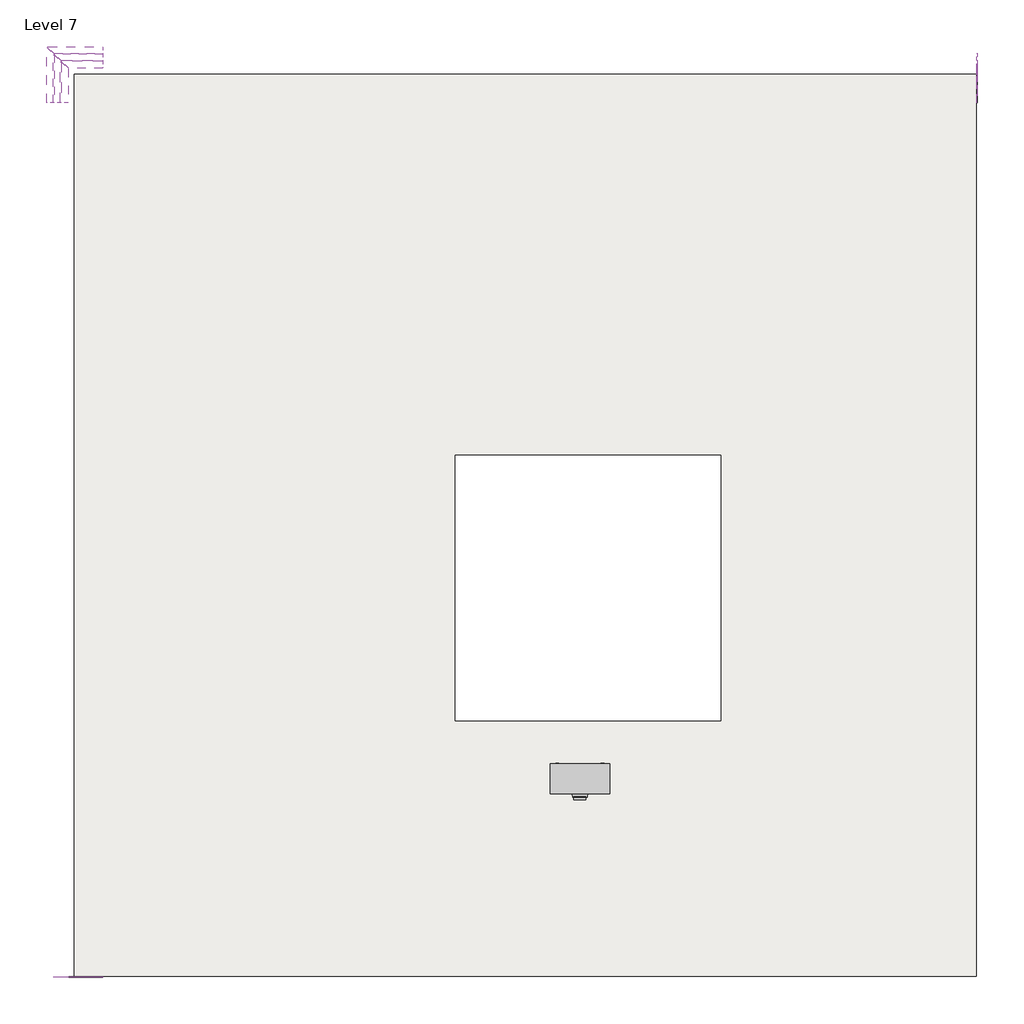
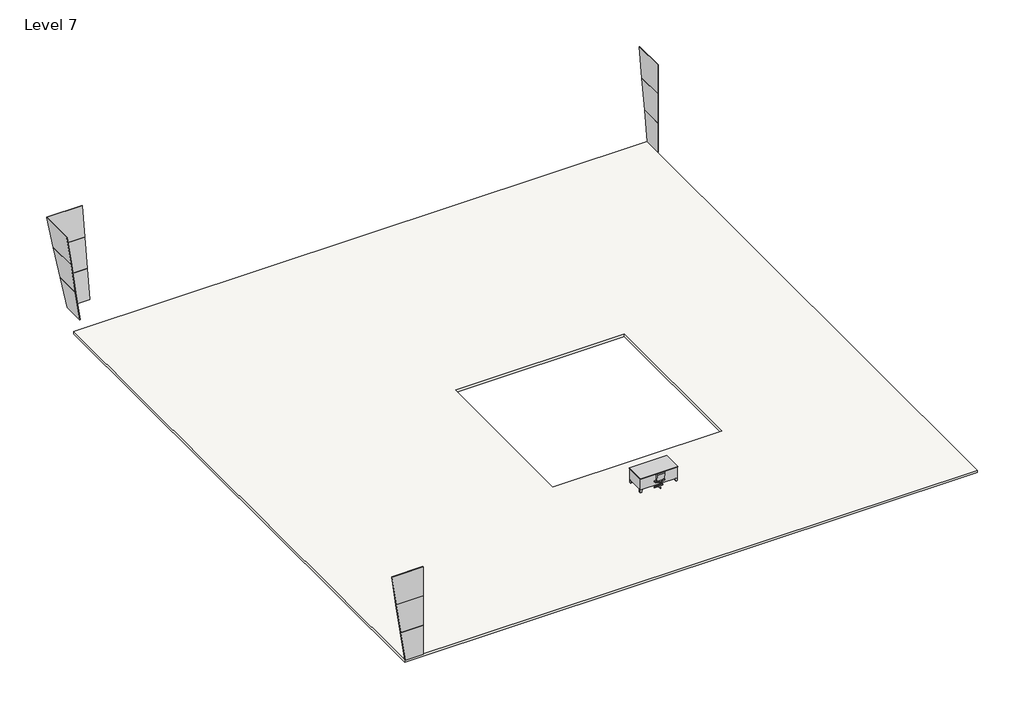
# One storey, incomplete: 12 plates, 2 furniture elements, 1 slab.
"""IFC4 building model written with IfcOpenShell, lengths in millimetres."""

from ifc_helpers import new_model, si_unit, frame, origin, place, context, project, spatial, polyline, outline, extrude, transform, mapped, element, save
from components import chair_desk_chair_desk_ccc35c8f, furniture_2fc54265, system_panel_glazed_5c92a166, system_panel_glazed_c6831191, system_panel_glazed_7408eea8, system_panel_glazed_878cacec, system_panel_glazed_611664ab, system_panel_glazed_9bcb30d3, system_panel_glazed_38c300a3, system_panel_glazed_bc7fa1e3, system_panel_glazed_dcd98b6b, system_panel_glazed_5ee33d18, system_panel_glazed_4f5d3427, system_panel_glazed_8a25e9b3

model = new_model("IFC4")

# Units and contexts
model_context = context("Model", 3, world=origin())
ifc_project = project(units=[si_unit("LENGTHUNIT", "METRE", prefix="MILLI")], contexts=[model_context])

# Site, building, storey
site = spatial("IfcSite", under=ifc_project)
building = spatial("IfcBuilding", under=site)
storey = spatial("IfcBuildingStorey", under=building, Name="Level 7", Elevation=27432.0)

# Furniture
placement = place(None, origin())
chair_desk_chair_desk_shape = chair_desk_chair_desk_ccc35c8f(model_context)
element("IfcFurniture", 1, ObjectType="Chair-Desk : Chair-Desk", at=placement, inside=storey, context=model_context, shape_type="MappedRepresentation", body=[
    mapped(chair_desk_chair_desk_shape, transform((-3928.2026957, -6947.9708988, 27432.0), x_axis=(1.0, 0.0, 0.0), y_axis=(0.0, 1.0, 0.0), z_axis=(0.0, 0.0, 1.0))),
])
furniture_shape = furniture_2fc54265(model_context)
element("IfcFurniture", 2, ObjectType="Desk : 72\" x 36\"", at=placement, inside=storey, context=model_context, shape_type="MappedRepresentation", body=[
    mapped(furniture_shape, transform((-4842.6026957, -6820.9708988, 27432.0), x_axis=(1.0, 0.0, 0.0), y_axis=(0.0, 1.0, 0.0), z_axis=(0.0, 0.0, 1.0))),
])

# Plates
system_panel_glazed_shape = system_panel_glazed_5c92a166(model_context)
element("IfcPlate", 3, ObjectType="System Panel : Glazed", at=placement, inside=storey, context=model_context, shape_type="MappedRepresentation", body=[
    mapped(system_panel_glazed_shape, transform((-19560.6562465, 15946.4908481, 28660.8391414), x_axis=(1.0, 0.0, 0.0), y_axis=(0.0, 0.9898065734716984, -0.1424182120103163), z_axis=(0.0, 0.1424182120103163, 0.9898065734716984))),
])
system_panel_glazed_2_shape = system_panel_glazed_c6831191(model_context)
element("IfcPlate", 4, ObjectType="System Panel : Glazed", at=placement, inside=storey, context=model_context, shape_type="MappedRepresentation", body=[
    mapped(system_panel_glazed_2_shape, transform((-19669.1789241, 16163.5362032, 30169.3043594), x_axis=(1.0, 0.0, 0.0), y_axis=(0.0, 0.9898065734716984, -0.1424182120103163), z_axis=(0.0, 0.1424182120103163, 0.9898065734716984))),
])
system_panel_glazed_3_shape = system_panel_glazed_7408eea8(model_context)
element("IfcPlate", 5, ObjectType="System Panel : Glazed", at=placement, inside=storey, context=model_context, shape_type="MappedRepresentation", body=[
    mapped(system_panel_glazed_3_shape, transform((-19777.7016016, 16380.5815583, 31677.7695774), x_axis=(1.0, 0.0, 0.0), y_axis=(0.0, 0.9898065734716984, -0.1424182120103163), z_axis=(0.0, 0.1424182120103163, 0.9898065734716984))),
])
system_panel_glazed_4_shape = system_panel_glazed_878cacec(model_context)
element("IfcPlate", 6, ObjectType="System Panel : Glazed", at=placement, inside=storey, context=model_context, shape_type="MappedRepresentation", body=[
    mapped(system_panel_glazed_4_shape, transform((-19990.0644426, 15517.0826523, 28660.8391414), x_axis=(0.0, 1.0, 0.0), y_axis=(-0.9898065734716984, 0.0, -0.1424182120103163), z_axis=(-0.1424182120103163, 0.0, 0.9898065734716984))),
])
system_panel_glazed_5_shape = system_panel_glazed_611664ab(model_context)
element("IfcPlate", 7, ObjectType="System Panel : Glazed", at=placement, inside=storey, context=model_context, shape_type="MappedRepresentation", body=[
    mapped(system_panel_glazed_5_shape, transform((-20207.1097977, 15625.6053299, 30169.3043594), x_axis=(0.0, 1.0, 0.0), y_axis=(-0.9898065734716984, 0.0, -0.1424182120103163), z_axis=(-0.1424182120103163, 0.0, 0.9898065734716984))),
])
system_panel_glazed_6_shape = system_panel_glazed_9bcb30d3(model_context)
element("IfcPlate", 8, ObjectType="System Panel : Glazed", at=placement, inside=storey, context=model_context, shape_type="MappedRepresentation", body=[
    mapped(system_panel_glazed_6_shape, transform((-20424.1551528, 15734.1280075, 31677.7695774), x_axis=(0.0, 1.0, 0.0), y_axis=(-0.9898065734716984, 0.0, -0.1424182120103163), z_axis=(-0.1424182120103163, 0.0, 0.9898065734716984))),
])
system_panel_glazed_7_shape = system_panel_glazed_38c300a3(model_context)
element("IfcPlate", 9, ObjectType="System Panel : Glazed", at=placement, inside=storey, context=model_context, shape_type="MappedRepresentation", body=[
    mapped(system_panel_glazed_7_shape, transform((8517.7973043, 15429.7945686, 27432.0), x_axis=(0.0, -1.0, 0.0), y_axis=(1.0, 0.0, 0.0), z_axis=(0.0, 0.0, 1.0))),
])
system_panel_glazed_8_shape = system_panel_glazed_bc7fa1e3(model_context)
element("IfcPlate", 10, ObjectType="System Panel : Glazed", at=placement, inside=storey, context=model_context, shape_type="MappedRepresentation", body=[
    mapped(system_panel_glazed_8_shape, transform((8517.7973043, 15539.4348564, 28956.0), x_axis=(0.0, -1.0, 0.0), y_axis=(1.0, 0.0, 0.0), z_axis=(0.0, 0.0, 1.0))),
])
system_panel_glazed_9_shape = system_panel_glazed_dcd98b6b(model_context)
element("IfcPlate", 11, ObjectType="System Panel : Glazed", at=placement, inside=storey, context=model_context, shape_type="MappedRepresentation", body=[
    mapped(system_panel_glazed_9_shape, transform((8517.7973043, 15649.0751442, 30480.0), x_axis=(0.0, -1.0, 0.0), y_axis=(1.0, 0.0, 0.0), z_axis=(0.0, 0.0, 1.0))),
])
system_panel_glazed_10_shape = system_panel_glazed_5ee33d18(model_context)
element("IfcPlate", 12, ObjectType="System Panel : Glazed", at=placement, inside=storey, context=model_context, shape_type="MappedRepresentation", body=[
    mapped(system_panel_glazed_10_shape, transform((-19473.3681634, -12561.3708988, 27432.0), x_axis=(-1.0, 0.0, 0.0), y_axis=(0.0, -1.0, 0.0), z_axis=(0.0, 0.0, 1.0))),
])
system_panel_glazed_11_shape = system_panel_glazed_4f5d3427(model_context)
element("IfcPlate", 13, ObjectType="System Panel : Glazed", at=placement, inside=storey, context=model_context, shape_type="MappedRepresentation", body=[
    mapped(system_panel_glazed_11_shape, transform((-19583.0084512, -12561.3708988, 28956.0), x_axis=(-1.0, 0.0, 0.0), y_axis=(0.0, -1.0, 0.0), z_axis=(0.0, 0.0, 1.0))),
])
system_panel_glazed_12_shape = system_panel_glazed_8a25e9b3(model_context)
element("IfcPlate", 14, ObjectType="System Panel : Glazed", at=placement, inside=storey, context=model_context, shape_type="MappedRepresentation", body=[
    mapped(system_panel_glazed_12_shape, transform((-19692.648739, -12561.3708988, 30480.0), x_axis=(-1.0, 0.0, 0.0), y_axis=(0.0, -1.0, 0.0), z_axis=(0.0, 0.0, 1.0))),
])

# Slab
element("IfcSlab", 15, ObjectType="3\" LW Concrete on 2\" Metal Deck", at=placement, inside=storey, context=model_context, shape_type="SweptSolid", body=[
    extrude(outline(polyline([(-19813.2530554, -12561.3708988), (-19813.2530554, 15769.6794609), (8517.7973043, 15769.6794609), (8517.7973043, -12561.3708988), (-19813.2530554, -12561.3708988)]), holes=[polyline([(-7844.5651957, 3800.9916012), (-7844.5651957, -4539.7333988), (496.1598043, -4539.7333988), (496.1598043, 3800.9916012), (-7844.5651957, 3800.9916012)])]), frame((0.0, 0.0, 27305.0), z_axis=(0.0, 0.0, 1.0), x_axis=(1.0, 0.0, 0.0)), (0.0, 0.0, 1.0), 127.0),
])

save(model, "model.ifc")
